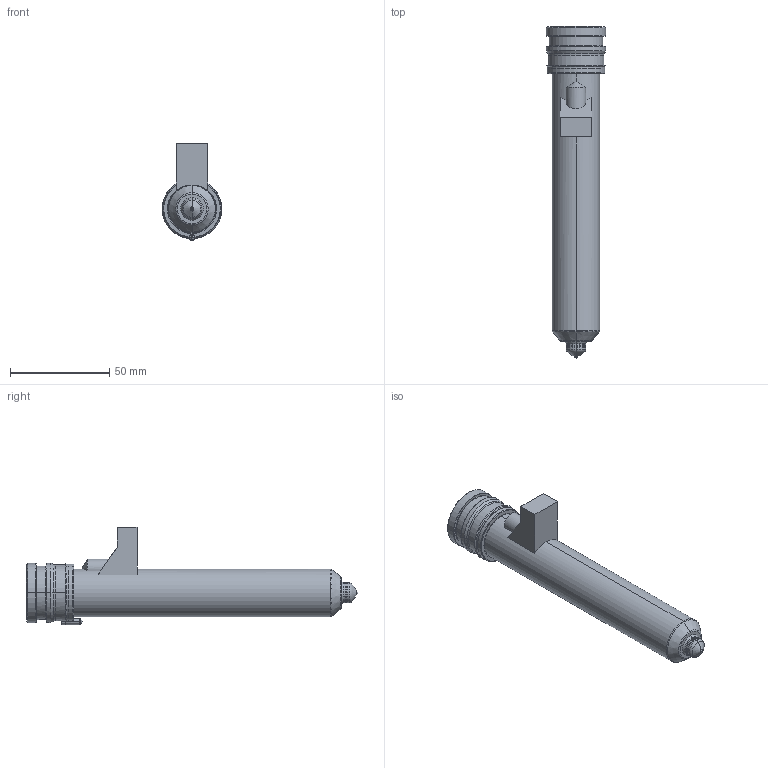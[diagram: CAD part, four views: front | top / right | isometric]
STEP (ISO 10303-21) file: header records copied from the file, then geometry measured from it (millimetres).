
FILE_DESCRIPTION((''),'2;1');
FILE_NAME('MPN-10-29-TX10-146-M','2026-02-05T12:51:33',('UPTIO'),('Thermoplay S.p.A.'),'CREO PARAMETRIC BY PTC INC, 2023494','CREO PARAMETRIC BY PTC INC, 2023494','');
FILE_SCHEMA(('CONFIG_CONTROL_DESIGN','SHAPE_APPEARANCE_LAYERS_GROUPS'));
Length unit declared in the file: millimetre
Products named in the file (1): MPN-10-29-TX10-146-M
Bounding box: 30 x 167.5 x 49 mm (x, y, z)
Volume: 52139.2 mm3; surface area: 53498.5 mm2
Topology: 3 solids, 5 shells, 541 faces, 1383 edges, 844 vertices
Faces by surface type: cylinder 177, plane 146, bspline 73, torus 67, cone 64, sphere 10, extrusion 4
Entity records: 29297 total; most frequent: CARTESIAN_POINT 13531, ORIENTED_EDGE 2748, DIRECTION 2568, EDGE_CURVE 1374, AXIS2_PLACEMENT_3D 1017, VERTEX_POINT 844, EDGE_LOOP 570, CIRCLE 552
